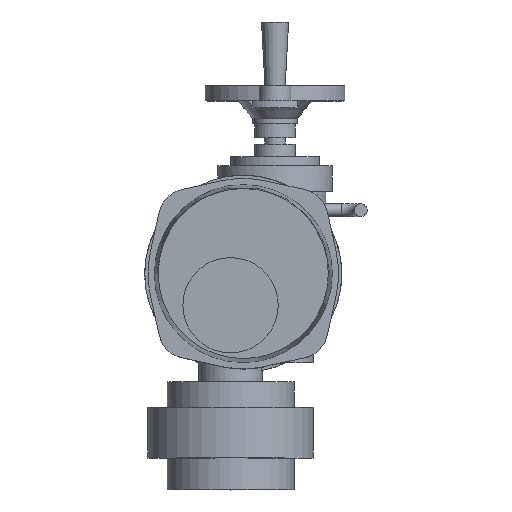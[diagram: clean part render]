
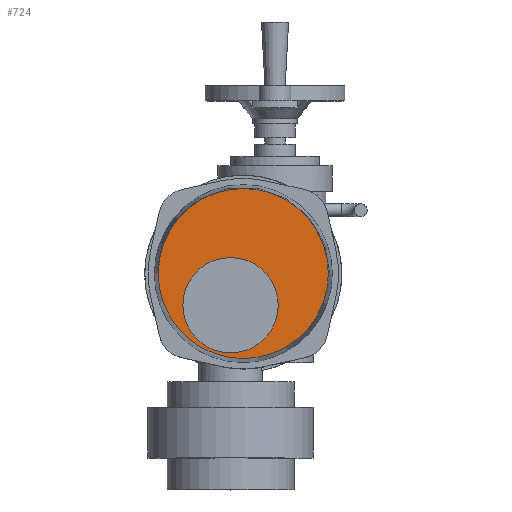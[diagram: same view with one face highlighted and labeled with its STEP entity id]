
A CAD part, top view. The second image highlights one B-rep face of the part: STEP entity #724.
In plain terms, the highlighted planar face has unit normal (0, 0, 1).
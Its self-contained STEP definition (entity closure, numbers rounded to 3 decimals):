
#724=ADVANCED_FACE('',(#7025,#7027),#7029,.T.);
#7025=FACE_BOUND('',#7026,.T.);
#7026=EDGE_LOOP('',(#11927));
#7027=FACE_BOUND('',#7028,.T.);
#7028=EDGE_LOOP('',(#11928));
#7029=PLANE('',#7030);
#7030=AXIS2_PLACEMENT_3D('',#7031,#7032,#7033);
#7031=CARTESIAN_POINT('',(15.,30.,372.));
#7032=DIRECTION('',(0.,0.,1.));
#7033=DIRECTION('',(-1.,0.,0.));
#11927=ORIENTED_EDGE('',*,*,#15681,.T.);
#11928=ORIENTED_EDGE('',*,*,#15684,.F.);
#15681=EDGE_CURVE('',#17772,#17772,#17773,.T.);
#15684=EDGE_CURVE('',#17778,#17778,#17779,.T.);
#17772=VERTEX_POINT('',#22070);
#17773=CIRCLE('',#22071,66.908);
#17778=VERTEX_POINT('',#22085);
#17779=CIRCLE('',#22086,37.5);
#22070=CARTESIAN_POINT('',(-51.908,30.,372.));
#22071=AXIS2_PLACEMENT_3D('',#22072,#22073,#22074);
#22072=CARTESIAN_POINT('',(15.,30.,372.));
#22073=DIRECTION('',(0.,0.,1.));
#22074=DIRECTION('',(-1.,0.,0.));
#22085=CARTESIAN_POINT('',(-32.5,5.,372.));
#22086=AXIS2_PLACEMENT_3D('',#22087,#22088,#22089);
#22087=CARTESIAN_POINT('',(5.,5.,372.));
#22088=DIRECTION('',(0.,0.,1.));
#22089=DIRECTION('',(-1.,0.,0.));
